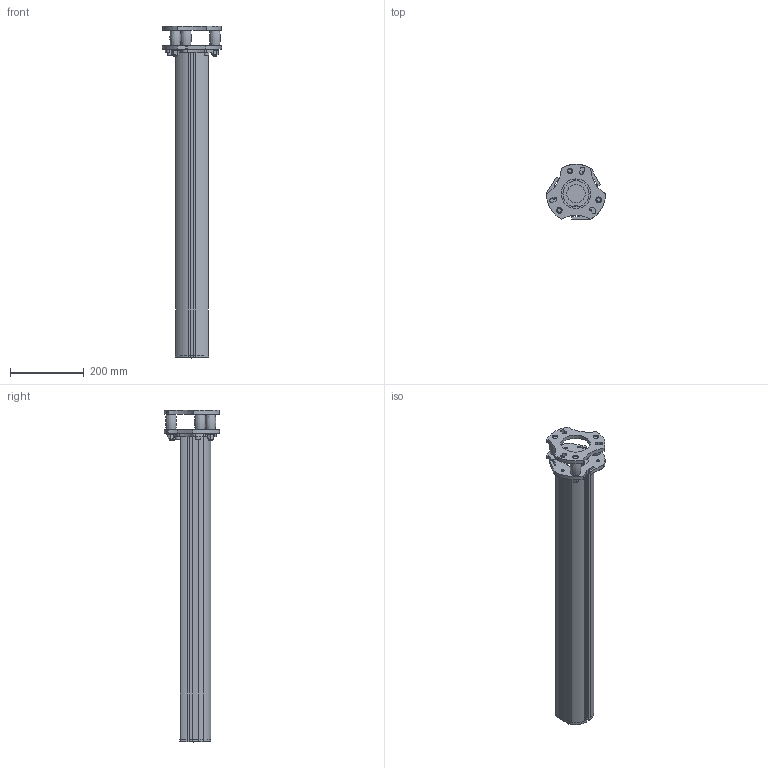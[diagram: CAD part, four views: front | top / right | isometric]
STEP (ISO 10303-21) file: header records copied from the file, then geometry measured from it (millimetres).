
FILE_DESCRIPTION((''),'2;1');
FILE_NAME('M:\INVENTORjob\Konstruktion\Ó\dulen\Baugruppe\Bauraummodelle\stp\549855_UDC-900-S2.stp','2012-07-11T10:18:23',('seisen'),(''),'Autodesk Inventor 2009','Autodesk Inventor 2009','');
FILE_SCHEMA(('AUTOMOTIVE_DESIGN { 1 0 10303 214 1 1 1 1 }'));
Length unit declared in the file: millimetre
Products named in the file (23): 549855_UDC-900-S2; 549855_UDC-900-S21; 549855_UDC-900-S22; 549855_UDC-900-S23; 549855_UDC-900-S24; 549855_UDC-900-S25; 549855_UDC-900-S26; 549855_UDC-900-S27; 549855_UDC-900-S28; 549855_UDC-900-S29; 549855_UDC-900-S210; 549855_UDC-900-S211; 549855_UDC-900-S212; 549855_UDC-900-S213; 549855_UDC-900-S214; 549855_UDC-900-S215; 549855_UDC-900-S216; 549855_UDC-900-S217; 549855_UDC-900-S218; 549855_UDC-900-S219; 549855_UDC-900-S220; 549855_UDC-900-S221; 549855_UDC-900-S222
Assembly tree (22 placements, depth 2):
  549855_UDC-900-S2
    549855_UDC-900-S21
    549855_UDC-900-S22
    549855_UDC-900-S23
    549855_UDC-900-S24
    549855_UDC-900-S25
    549855_UDC-900-S26
    549855_UDC-900-S27
    549855_UDC-900-S28
    549855_UDC-900-S29
    549855_UDC-900-S210
    549855_UDC-900-S211
    549855_UDC-900-S212
    549855_UDC-900-S213
    549855_UDC-900-S214
    549855_UDC-900-S215
    549855_UDC-900-S216
    549855_UDC-900-S217
    549855_UDC-900-S218
    549855_UDC-900-S219
    549855_UDC-900-S220
    549855_UDC-900-S221
    549855_UDC-900-S222
Bounding box: 160 x 150.44 x 899.92 mm (x, y, z)
Volume: 1354297 mm3; surface area: 723858.2 mm2
Topology: 22 solids, 23 shells, 459 faces, 1162 edges, 766 vertices
Faces by surface type: plane 202, cylinder 146, bspline 87, cone 20, torus 3, revolution 1
Full cylindrical faces by diameter (mm): 5.4 x1, 5.6 x2, 6 x1, 6.43 x7, 6.7 x3, 8 x3, 8.4 x3, 10 x6, 10.5 x3, 10.628 x3, 11 x3, 11.5 x3, 12.2 x1, 13 x3, 15 x4, 15.2 x1, 15.5 x3, 16 x3, 22 x3, 49.93 x1, 70.626 x1, 79.93 x1
Entity records: 14904 total; most frequent: CARTESIAN_POINT 3505, DIRECTION 2213, ORIENTED_EDGE 2130, EDGE_CURVE 1065, AXIS2_PLACEMENT_3D 806, VERTEX_POINT 763, EDGE_LOOP 646, VECTOR 600
